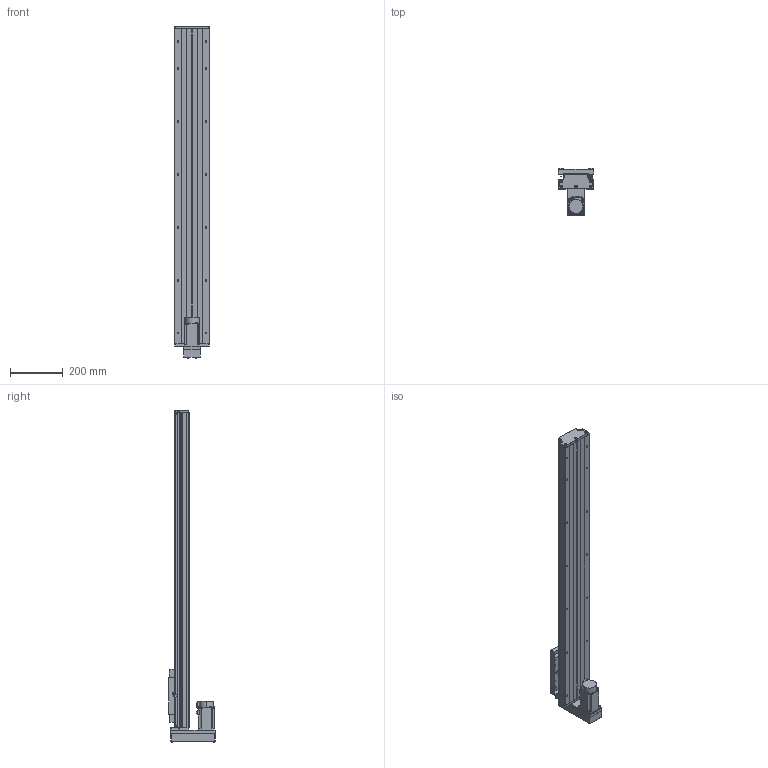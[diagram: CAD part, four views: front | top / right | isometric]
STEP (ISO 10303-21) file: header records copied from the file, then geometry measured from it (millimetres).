
FILE_DESCRIPTION (( 'STEP AP203' ), '1' );
FILE_NAME ('GTH14-950-BM-M40-C4.step', '2023-06-30T08:48:01', ( '微软用户' ), ( '微软中国' ), 'SwSTEP 2.0', 'SolidWorks 2020', '' );
FILE_SCHEMA (( 'CONFIG_CONTROL_DESIGN' ));
Length unit declared in the file: millimetre
Products named in the file (19): GTH14-005; GBT77-2000 M3×3; HG-KN43J-S100; GB1155-6X6; GTH14-031; GBT 70.2-M4¡Á35_M4¡Á35; GBT70.1 M5℅16; GBT 70.2-M3¡Á5_M3¡Á6; GTH14-015-2_CTHA86-015-2; CTHA60-017; す晦芛蹟隊 M3℅5; GTH14-001_950; GTH14-033; EE_SX911P_R; GTH14-002_GTH14-002; GTH14-950-BM-M40-C4; CTHA60-016; GTH14-004; GBT 70.1-M3℅5
Assembly tree (58 placements, depth 2):
  GTH14-950-BM-M40-C4
    GTH14-001_950
    GTH14-002_GTH14-002
    GTH14-004
    GTH14-005
    GB1155-6X6  x2
    GBT70.1 M5℅16  x10
    CTHA60-017  x3
    EE_SX911P_R  x3
    CTHA60-016  x2
    GBT 70.1-M3℅5  x6
    GBT77-2000 M3×3  x6
    GTH14-031
    GBT 70.2-M3¡Á5_M3¡Á6  x8
    す晦芛蹟隊 M3℅5  x6
    HG-KN43J-S100
    GBT 70.2-M4¡Á35_M4¡Á35  x4
    GTH14-015-2_CTHA86-015-2
    GTH14-033
Bounding box: 135 x 177.5 x 1254.2 mm (x, y, z)
Volume: 6724369.7 mm3; surface area: 1088999.4 mm2
Topology: 61 solids, 61 shells, 2473 faces, 5881 edges, 3626 vertices
Faces by surface type: plane 1311, cylinder 672, cone 314, torus 124, sphere 32, bspline 20
Entity records: 44774 total; most frequent: CARTESIAN_POINT 9957, DIRECTION 6609, ORIENTED_EDGE 6452, EDGE_CURVE 3226, AXIS2_PLACEMENT_3D 2270, VECTOR 2069, LINE 2069, VERTEX_POINT 2044
